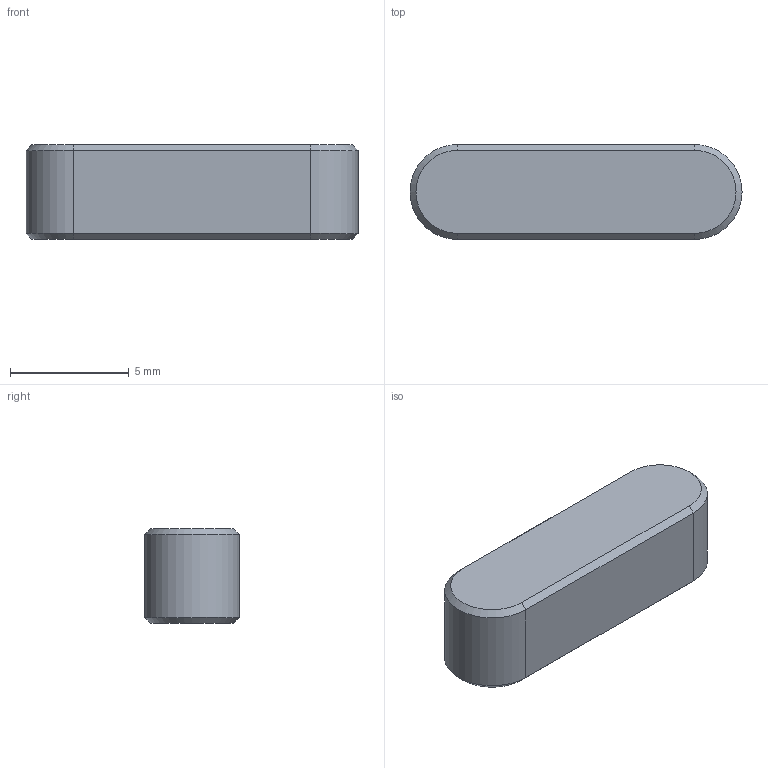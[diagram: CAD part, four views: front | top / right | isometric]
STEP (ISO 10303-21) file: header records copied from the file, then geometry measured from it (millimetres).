
FILE_DESCRIPTION(/* description */ ('키 및 해당 키홈'),/* implementation_level */ '2;1');
FILE_NAME(/* name */ '',/* time_stamp */ '2024-07-11T13:42:21+09:00',/* author */ ('jhkim'),/* organization */ (''),/* preprocessor_version */ 'ST-DEVELOPER v20',/* originating_system */ 'Autodesk Inventor 2025',/* authorisation */ '');
FILE_SCHEMA (('AUTOMOTIVE_DESIGN { 1 0 10303 214 3 1 1 }'));
Length unit declared in the file: millimetre
Products named in the file (1): 평행키 4x4x14
Bounding box: 14 x 4 x 4 mm (x, y, z)
Volume: 208.3 mm3; surface area: 225.7 mm2
Topology: 1 solids, 1 shells, 14 faces, 28 edges, 16 vertices
Faces by surface type: plane 8, cone 4, cylinder 2
Entity records: 399 total; most frequent: DIRECTION 66, CARTESIAN_POINT 59, ORIENTED_EDGE 56, EDGE_CURVE 28, AXIS2_PLACEMENT_3D 23, LINE 20, VECTOR 20, VERTEX_POINT 16
